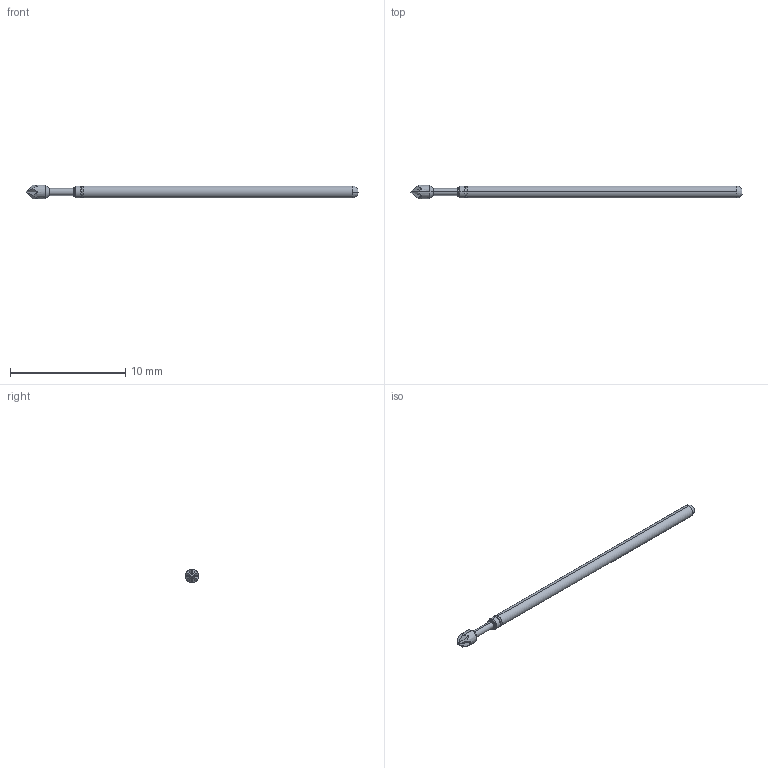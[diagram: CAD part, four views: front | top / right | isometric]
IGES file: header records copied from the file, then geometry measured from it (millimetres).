
Start section: SolidWorks IGES file using analytic representation for surfaces
Global section: file name: Z:\probe solid model mockups\Solidworks models\Parts\LFRE-1P RECD.IGS; native system: SolidWorks 2016; preprocessor: SolidWorks 2016; author: mlee; date: 180927.163752; units: inch
Bounding box: 28.77 x 1.19 x 1.19 mm (x, y, z)
Surface area: 90.3 mm2 (no closed solid volume)
Topology: 0 solids, 0 shells, 34 faces, 202 edges, 202 vertices
Faces by surface type: bspline 18, revolution 16
